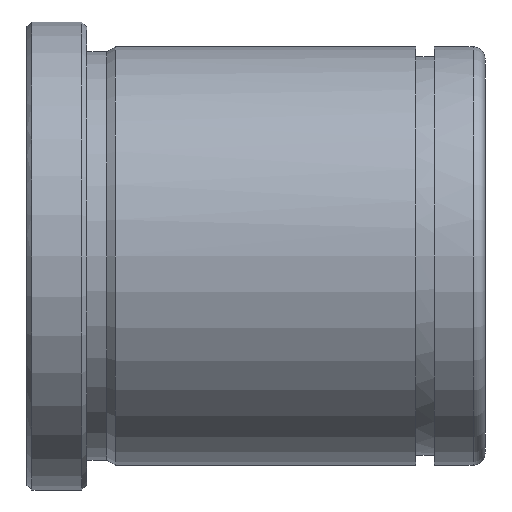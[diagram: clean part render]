
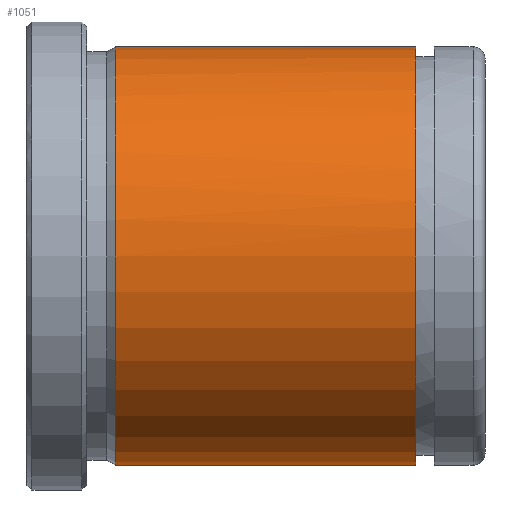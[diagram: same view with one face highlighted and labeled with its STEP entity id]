
A CAD part, front view. The second image highlights one B-rep face of the part: STEP entity #1051.
In plain terms, the highlighted cylindrical face has radius 21 mm (diameter 42 mm), a partial arc.
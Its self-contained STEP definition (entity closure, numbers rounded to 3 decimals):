
#851=CARTESIAN_POINT('Vertex',(8.866,0.,-21.)) ;
#858=CARTESIAN_POINT('Vertex',(8.866,0.,21.)) ;
#887=CARTESIAN_POINT('Axis2P3D Location',(8.866,0.,0.)) ;
#891=CARTESIAN_POINT('Vertex',(8.866,-21.,0.)) ;
#894=CARTESIAN_POINT('Axis2P3D Location',(8.866,0.,0.)) ;
#985=CARTESIAN_POINT('Line Origine',(92.,0.,21.)) ;
#989=CARTESIAN_POINT('Vertex',(39.05,0.,21.)) ;
#1006=CARTESIAN_POINT('Vertex',(39.05,0.,-21.)) ;
#1009=CARTESIAN_POINT('Line Origine',(92.,0.,-21.)) ;
#1023=CARTESIAN_POINT('Axis2P3D Location',(92.,0.,0.)) ;
#1028=CARTESIAN_POINT('Axis2P3D Location',(39.05,0.,0.)) ;
#1032=CARTESIAN_POINT('Vertex',(39.05,-21.,0.)) ;
#1036=CARTESIAN_POINT('Control Point',(39.05,0.,21.)) ;
#1037=CARTESIAN_POINT('Control Point',(39.05,-6.597,21.)) ;
#1038=CARTESIAN_POINT('Control Point',(39.05,-13.201,18.417)) ;
#1039=CARTESIAN_POINT('Control Point',(39.05,-18.417,13.201)) ;
#1040=CARTESIAN_POINT('Control Point',(39.05,-21.,6.597)) ;
#1041=CARTESIAN_POINT('Control Point',(39.05,-21.,0.)) ;
#888=DIRECTION('Axis2P3D Direction',(1.,0.,-0.)) ;
#895=DIRECTION('Axis2P3D Direction',(1.,0.,-0.)) ;
#986=DIRECTION('Vector Direction',(-1.,0.,0.)) ;
#1010=DIRECTION('Vector Direction',(-1.,0.,0.)) ;
#1024=DIRECTION('Axis2P3D Direction',(-1.,-0.,-0.)) ;
#1025=DIRECTION('Axis2P3D XDirection',(0.,0.,-1.)) ;
#1029=DIRECTION('Axis2P3D Direction',(-1.,-0.,-0.)) ;
#889=AXIS2_PLACEMENT_3D('Circle Axis2P3D',#887,#888,$) ;
#896=AXIS2_PLACEMENT_3D('Circle Axis2P3D',#894,#895,$) ;
#1026=AXIS2_PLACEMENT_3D('Cylinder Axis2P3D',#1023,#1024,#1025) ;
#1030=AXIS2_PLACEMENT_3D('Circle Axis2P3D',#1028,#1029,$) ;
#1044=ORIENTED_EDGE('',*,*,#1013,.T.) ;
#1045=ORIENTED_EDGE('',*,*,#1034,.F.) ;
#1046=ORIENTED_EDGE('',*,*,#1042,.F.) ;
#1047=ORIENTED_EDGE('',*,*,#991,.T.) ;
#1048=ORIENTED_EDGE('',*,*,#898,.T.) ;
#1049=ORIENTED_EDGE('',*,*,#893,.T.) ;
#987=VECTOR('Line Direction',#986,1.) ;
#1011=VECTOR('Line Direction',#1010,1.) ;
#1051=ADVANCED_FACE('553-30X46',(#1050),#1027,.T.) ;
#1035=B_SPLINE_CURVE_WITH_KNOTS('',5,(#1036,#1037,#1038,#1039,#1040,#1041),.UNSPECIFIED.,.F.,.U.,(6,6),(-16.493,16.493),.UNSPECIFIED.) ;
#890=CIRCLE('generated circle',#889,21.) ;
#897=CIRCLE('generated circle',#896,21.) ;
#1031=CIRCLE('generated circle',#1030,21.) ;
#1027=CYLINDRICAL_SURFACE('generated cylinder',#1026,21.) ;
#893=EDGE_CURVE('',#892,#852,#890,.T.) ;
#898=EDGE_CURVE('',#859,#892,#897,.T.) ;
#991=EDGE_CURVE('',#990,#859,#988,.T.) ;
#1013=EDGE_CURVE('',#852,#1007,#1012,.F.) ;
#1034=EDGE_CURVE('',#1033,#1007,#1031,.F.) ;
#1042=EDGE_CURVE('',#990,#1033,#1035,.T.) ;
#1043=EDGE_LOOP('',(#1044,#1045,#1046,#1047,#1048,#1049)) ;
#1050=FACE_OUTER_BOUND('',#1043,.T.) ;
#988=LINE('Line',#985,#987) ;
#1012=LINE('Line',#1009,#1011) ;
#852=VERTEX_POINT('',#851) ;
#859=VERTEX_POINT('',#858) ;
#892=VERTEX_POINT('',#891) ;
#990=VERTEX_POINT('',#989) ;
#1007=VERTEX_POINT('',#1006) ;
#1033=VERTEX_POINT('',#1032) ;
